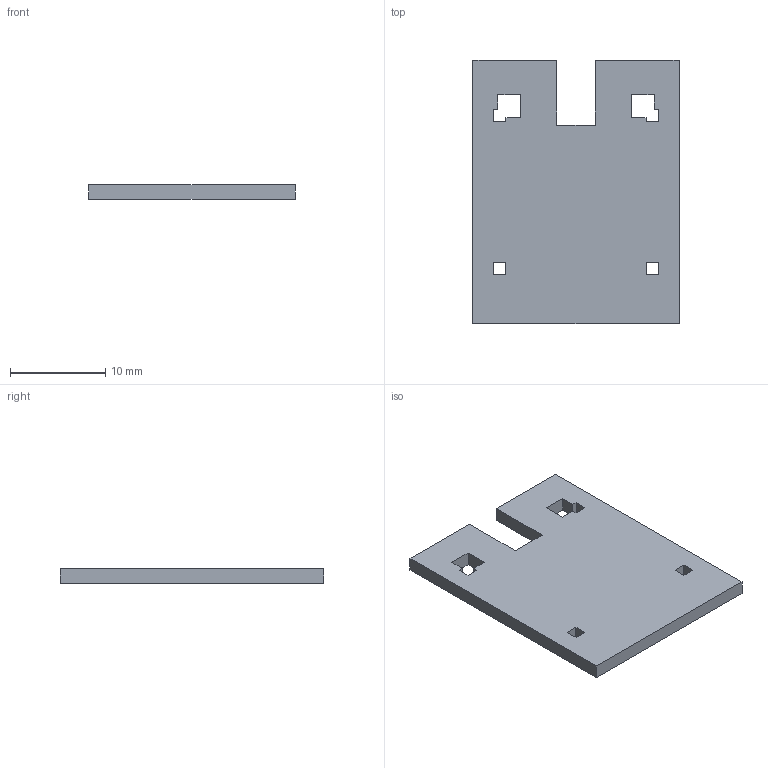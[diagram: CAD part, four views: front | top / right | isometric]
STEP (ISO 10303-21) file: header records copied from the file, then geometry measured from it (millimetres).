
FILE_DESCRIPTION(('Open CASCADE Model'),'2;1');
FILE_NAME('Open CASCADE Shape Model','2026-09-13T17:41:39',('Author'),( 'Open CASCADE'),'Open CASCADE STEP processor 7.8','Open CASCADE 7.8' ,'Unknown');
FILE_SCHEMA(('AUTOMOTIVE_DESIGN { 1 0 10303 214 1 1 1 1 }'));
Length unit declared in the file: millimetre
Products named in the file (1): Open CASCADE STEP translator 7.8 7
Bounding box: 21.6 x 27.6 x 1.5 mm (x, y, z)
Volume: 827.9 mm3; surface area: 1322.1 mm2
Topology: 1 solids, 1 shells, 34 faces, 96 edges, 64 vertices
Faces by surface type: plane 34
Entity records: 2354 total; most frequent: CARTESIAN_POINT 387, DIRECTION 358, LINE 288, VECTOR 288, ORIENTED_EDGE 192, PCURVE 192, DEFINITIONAL_REPRESENTATION 192, EDGE_CURVE 96
